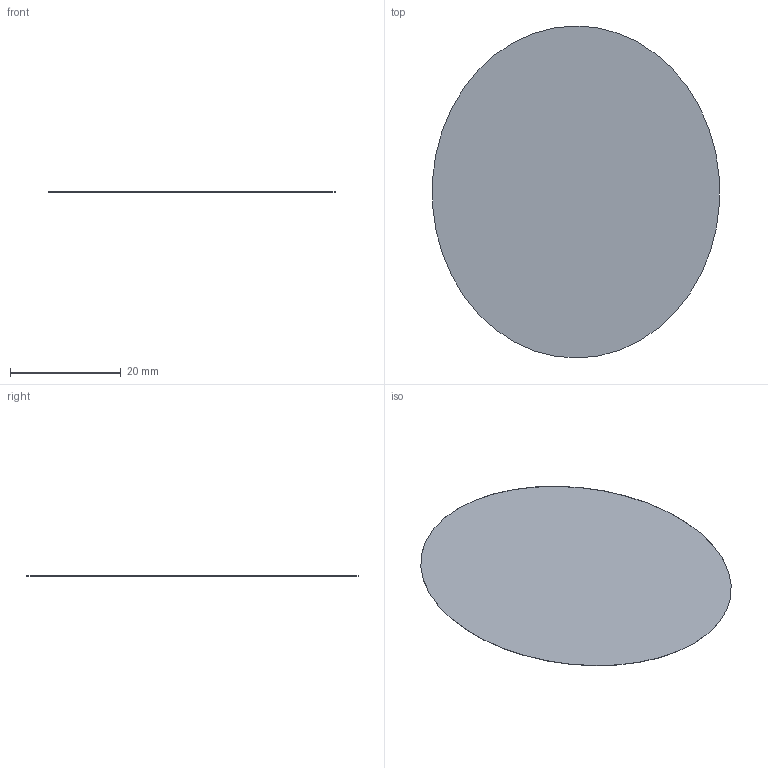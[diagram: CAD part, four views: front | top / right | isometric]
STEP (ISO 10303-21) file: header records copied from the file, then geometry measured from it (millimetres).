
FILE_DESCRIPTION(('Open CASCADE Model'),'2;1');
FILE_NAME('Open CASCADE Shape Model','2026-09-06T11:41:05',('Author'),( 'Open CASCADE'),'Open CASCADE STEP processor 7.7','Open CASCADE 7.7' ,'Unknown');
FILE_SCHEMA(('AUTOMOTIVE_DESIGN { 1 0 10303 214 1 1 1 1 }'));
Length unit declared in the file: millimetre
Products named in the file (1): Open CASCADE STEP translator 7.7 2
Bounding box: 51.89 x 60 x 0.04 mm (x, y, z)
Volume: 98 mm3; surface area: 4907.9 mm2
Topology: 1 solids, 1 shells, 3 faces, 3 edges, 2 vertices
Faces by surface type: plane 2, extrusion 1
Entity records: 111 total; most frequent: DIRECTION 20, CARTESIAN_POINT 15, AXIS2_PLACEMENT_3D 6, ORIENTED_EDGE 6, VECTOR 6, PCURVE 6, DEFINITIONAL_REPRESENTATION 6, LINE 5
